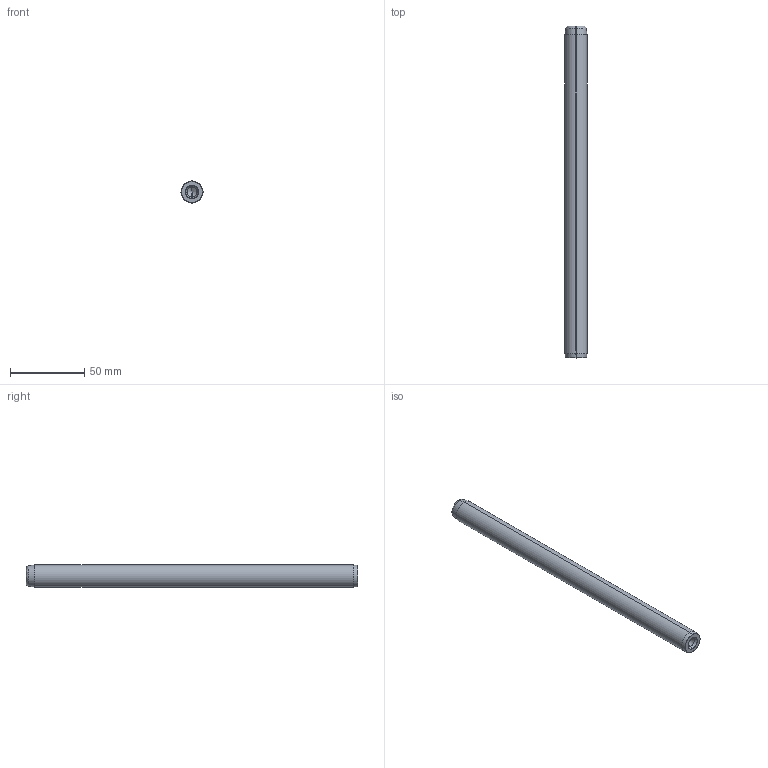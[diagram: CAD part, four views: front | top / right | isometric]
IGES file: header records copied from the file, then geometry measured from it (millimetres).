
Start section: SolidWorks IGES file using analytic representation for surfaces
Global section: file name: C:\Users\Dell\Desktop\deltakont\hatalýlar\D14\Ø15\D14_15224.IGS; native system: SolidWorks 2010; preprocessor: SolidWorks 2010; author: Dell; date: 111225.011341; units: metre
Bounding box: 15 x 224 x 15 mm (x, y, z)
Surface area: 11908.9 mm2 (no closed solid volume)
Topology: 0 solids, 0 shells, 22 faces, 208 edges, 204 vertices
Faces by surface type: revolution 18, bspline 4
